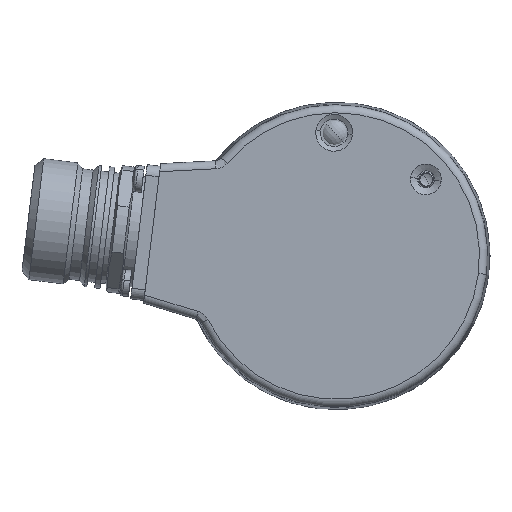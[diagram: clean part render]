
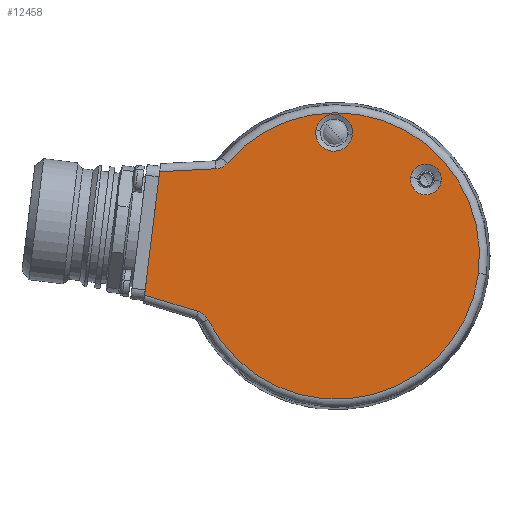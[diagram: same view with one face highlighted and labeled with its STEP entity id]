
A CAD part, left-side view. The second image highlights one B-rep face of the part: STEP entity #12458.
In plain terms, the highlighted planar face has unit normal (-1, 0, 0).
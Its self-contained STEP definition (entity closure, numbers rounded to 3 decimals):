
#340 = DIRECTION ( 'NONE',  ( 0., -0.993, -0.122 ) ) ;
#341 = DIRECTION ( 'NONE',  ( 1., 0., 0. ) ) ;
#342 = CARTESIAN_POINT ( 'NONE',  ( -30.5, -16.919, 14.45 ) ) ;
#343 = AXIS2_PLACEMENT_3D ( 'NONE', #342, #341, #340 ) ;
#344 = CIRCLE ( 'NONE', #343, 2.899 ) ;
#6248 = CARTESIAN_POINT ( 'NONE',  ( -30.5, -3.034, 22.824 ) ) ;
#6834 = CARTESIAN_POINT ( 'NONE',  ( -30.5, 3.846, 23.669 ) ) ;
#6835 = DIRECTION ( 'NONE',  ( 0., -0.993, -0.122 ) ) ;
#6836 = DIRECTION ( 'NONE',  ( 1., 0., 0. ) ) ;
#6837 = CARTESIAN_POINT ( 'NONE',  ( -30.5, 0.406, 23.246 ) ) ;
#6838 = AXIS2_PLACEMENT_3D ( 'NONE', #6837, #6836, #6835 ) ;
#6839 = CIRCLE ( 'NONE', #6838, 3.466 ) ;
#7223 = CARTESIAN_POINT ( 'NONE',  ( -30.5, -19.796, 14.097 ) ) ;
#7255 = CARTESIAN_POINT ( 'NONE',  ( -30.5, -14.042, 14.804 ) ) ;
#7256 = DIRECTION ( 'NONE',  ( 0., -0.993, -0.122 ) ) ;
#7257 = DIRECTION ( 'NONE',  ( 1., 0., 0. ) ) ;
#7258 = CARTESIAN_POINT ( 'NONE',  ( -30.5, -16.919, 14.45 ) ) ;
#7259 = AXIS2_PLACEMENT_3D ( 'NONE', #7258, #7257, #7256 ) ;
#7260 = CIRCLE ( 'NONE', #7259, 2.899 ) ;
#7264 = DIRECTION ( 'NONE',  ( 0., -0.993, -0.122 ) ) ;
#7265 = DIRECTION ( 'NONE',  ( -1., 0., 0. ) ) ;
#7266 = CARTESIAN_POINT ( 'NONE',  ( -30.5, 0., 0. ) ) ;
#7267 = AXIS2_PLACEMENT_3D ( 'NONE', #7266, #7265, #7264 ) ;
#7268 = CIRCLE ( 'NONE', #7267, 27.022 ) ;
#7414 = CARTESIAN_POINT ( 'NONE',  ( -30.5, 20.579, 17.512 ) ) ;
#7415 = CARTESIAN_POINT ( 'NONE',  ( -30.5, -26.821, -3.293 ) ) ;
#8282 = CARTESIAN_POINT ( 'NONE',  ( -30.5, 36.168, -7.374 ) ) ;
#8310 = CARTESIAN_POINT ( 'NONE',  ( -30.5, 26.015, -10.478 ) ) ;
#8316 = CARTESIAN_POINT ( 'NONE',  ( -30.5, 24.205, -12.014 ) ) ;
#8331 = CARTESIAN_POINT ( 'NONE',  ( -30.5, 26.015, -10.478 ) ) ;
#8332 = CARTESIAN_POINT ( 'NONE',  ( -30.5, 25.819, -10.538 ) ) ;
#8333 = CARTESIAN_POINT ( 'NONE',  ( -30.5, 25.632, -10.617 ) ) ;
#8334 = CARTESIAN_POINT ( 'NONE',  ( -30.5, 25.277, -10.811 ) ) ;
#8335 = CARTESIAN_POINT ( 'NONE',  ( -30.5, 25.107, -10.927 ) ) ;
#8336 = CARTESIAN_POINT ( 'NONE',  ( -30.5, 24.797, -11.19 ) ) ;
#8337 = CARTESIAN_POINT ( 'NONE',  ( -30.5, 24.657, -11.336 ) ) ;
#8338 = CARTESIAN_POINT ( 'NONE',  ( -30.5, 24.406, -11.656 ) ) ;
#8339 = CARTESIAN_POINT ( 'NONE',  ( -30.5, 24.296, -11.83 ) ) ;
#8340 = CARTESIAN_POINT ( 'NONE',  ( -30.5, 24.205, -12.014 ) ) ;
#8349 = B_SPLINE_CURVE_WITH_KNOTS ( 'NONE', 3,
 ( #8340, #8339, #8338, #8337, #8336, #8335, #8334, #8333, #8332, #8331 ),
 .UNSPECIFIED., .F., .F.,
 ( 4, 2, 2, 2, 4 ),
 ( 0., 0.001, 0.001, 0.002, 0.002 ),
 .UNSPECIFIED. ) ;
#8546 = DIRECTION ( 'NONE',  ( 0., -0.993, -0.122 ) ) ;
#8547 = DIRECTION ( 'NONE',  ( -1., 0., 0. ) ) ;
#8548 = CARTESIAN_POINT ( 'NONE',  ( -30.5, 0., 0. ) ) ;
#8549 = AXIS2_PLACEMENT_3D ( 'NONE', #8548, #8547, #8546 ) ;
#8550 = CIRCLE ( 'NONE', #8549, 27.022 ) ;
#9016 = DIRECTION ( 'NONE',  ( 0., 0.999, -0.052 ) ) ;
#9017 = VECTOR ( 'NONE', #9016, 1000. ) ;
#9018 = CARTESIAN_POINT ( 'NONE',  ( -30.5, 33.046, 15.919 ) ) ;
#9019 = LINE ( 'NONE', #9018, #9017 ) ;
#9096 = DIRECTION ( 'NONE',  ( 0., -0.956, -0.292 ) ) ;
#9097 = VECTOR ( 'NONE', #9096, 1000. ) ;
#9098 = CARTESIAN_POINT ( 'NONE',  ( -30.5, 25.362, -10.678 ) ) ;
#9099 = LINE ( 'NONE', #9098, #9097 ) ;
#9101 = CARTESIAN_POINT ( 'NONE',  ( -30.5, 22.708, 16.461 ) ) ;
#9102 = CARTESIAN_POINT ( 'NONE',  ( -30.5, 33.31, 15.905 ) ) ;
#9231 = FACE_OUTER_BOUND ( 'NONE', #12633, .T. ) ;
#9232 = FACE_BOUND ( 'NONE', #12626, .T. ) ;
#9233 = FACE_BOUND ( 'NONE', #12460, .T. ) ;
#9234 = DIRECTION ( 'NONE',  ( 0., -0.993, -0.122 ) ) ;
#9235 = DIRECTION ( 'NONE',  ( 1., 0., 0. ) ) ;
#9236 = CARTESIAN_POINT ( 'NONE',  ( -30.5, 0.406, 23.246 ) ) ;
#9237 = AXIS2_PLACEMENT_3D ( 'NONE', #9236, #9235, #9234 ) ;
#9238 = CIRCLE ( 'NONE', #9237, 3.466 ) ;
#9370 = DIRECTION ( 'NONE',  ( 0., -0.122, 0.993 ) ) ;
#9371 = VECTOR ( 'NONE', #9370, 1000. ) ;
#9372 = CARTESIAN_POINT ( 'NONE',  ( -30.5, 36.354, -8.886 ) ) ;
#9373 = LINE ( 'NONE', #9372, #9371 ) ;
#9421 = CARTESIAN_POINT ( 'NONE',  ( -30.5, 20.579, 17.512 ) ) ;
#9422 = CARTESIAN_POINT ( 'NONE',  ( -30.5, 20.712, 17.356 ) ) ;
#9423 = CARTESIAN_POINT ( 'NONE',  ( -30.5, 20.859, 17.216 ) ) ;
#9424 = CARTESIAN_POINT ( 'NONE',  ( -30.5, 21.178, 16.967 ) ) ;
#9425 = CARTESIAN_POINT ( 'NONE',  ( -30.5, 21.352, 16.857 ) ) ;
#9453 = CARTESIAN_POINT ( 'NONE',  ( -30.5, 0., 0. ) ) ;
#9456 = AXIS2_PLACEMENT_3D ( 'NONE', #9453, #9580, #9579 ) ;
#9484 = B_SPLINE_CURVE_WITH_KNOTS ( 'NONE', 3,
 ( #9592, #9591, #9590, #9589, #9588, #9425, #9424, #9423, #9422, #9421 ),
 .UNSPECIFIED., .F., .F.,
 ( 4, 2, 2, 2, 4 ),
 ( 0., 0.001, 0.001, 0.002, 0.002 ),
 .UNSPECIFIED. ) ;
#9492 = PLANE ( 'NONE',  #9456 ) ;
#9579 = DIRECTION ( 'NONE',  ( 0., -0.993, -0.122 ) ) ;
#9580 = DIRECTION ( 'NONE',  ( 1., 0., 0. ) ) ;
#9588 = CARTESIAN_POINT ( 'NONE',  ( -30.5, 21.716, 16.677 ) ) ;
#9589 = CARTESIAN_POINT ( 'NONE',  ( -30.5, 21.906, 16.606 ) ) ;
#9590 = CARTESIAN_POINT ( 'NONE',  ( -30.5, 22.299, 16.503 ) ) ;
#9591 = CARTESIAN_POINT ( 'NONE',  ( -30.5, 22.503, 16.471 ) ) ;
#9592 = CARTESIAN_POINT ( 'NONE',  ( -30.5, 22.708, 16.461 ) ) ;
#11676 = VERTEX_POINT ( 'NONE', #6248 ) ;
#11805 = EDGE_CURVE ( 'NONE', #11806, #11676, #6839, .T. ) ;
#11806 = VERTEX_POINT ( 'NONE', #6834 ) ;
#11886 = VERTEX_POINT ( 'NONE', #7223 ) ;
#11889 = EDGE_CURVE ( 'NONE', #11891, #11886, #7260, .T. ) ;
#11891 = VERTEX_POINT ( 'NONE', #7255 ) ;
#11936 = EDGE_CURVE ( 'NONE', #11945, #11946, #7268, .T. ) ;
#11945 = VERTEX_POINT ( 'NONE', #7415 ) ;
#11946 = VERTEX_POINT ( 'NONE', #7414 ) ;
#12222 = VERTEX_POINT ( 'NONE', #8282 ) ;
#12258 = VERTEX_POINT ( 'NONE', #8316 ) ;
#12262 = VERTEX_POINT ( 'NONE', #8310 ) ;
#12273 = EDGE_CURVE ( 'NONE', #12258, #12262, #8349, .T. ) ;
#12304 = EDGE_CURVE ( 'NONE', #12258, #11945, #8550, .T. ) ;
#12331 = EDGE_CURVE ( 'NONE', #12347, #12346, #9019, .T. ) ;
#12346 = VERTEX_POINT ( 'NONE', #9102 ) ;
#12347 = VERTEX_POINT ( 'NONE', #9101 ) ;
#12349 = EDGE_CURVE ( 'NONE', #12222, #12262, #9099, .T. ) ;
#12412 = ORIENTED_EDGE ( 'NONE', *, *, #12466, .F. ) ;
#12415 = ORIENTED_EDGE ( 'NONE', *, *, #12331, .T. ) ;
#12417 = ORIENTED_EDGE ( 'NONE', *, *, #12419, .F. ) ;
#12419 = EDGE_CURVE ( 'NONE', #12222, #12346, #9373, .T. ) ;
#12421 = ORIENTED_EDGE ( 'NONE', *, *, #12349, .T. ) ;
#12425 = ORIENTED_EDGE ( 'NONE', *, *, #12273, .F. ) ;
#12427 = ORIENTED_EDGE ( 'NONE', *, *, #12304, .T. ) ;
#12429 = ORIENTED_EDGE ( 'NONE', *, *, #11936, .T. ) ;
#12457 = EDGE_CURVE ( 'NONE', #11676, #11806, #9238, .T. ) ;
#12458 = ADVANCED_FACE ( 'NONE', ( #9233, #9232, #9231 ), #9492, .F. ) ;
#12460 = EDGE_LOOP ( 'NONE', ( #12462, #12625 ) ) ;
#12462 = ORIENTED_EDGE ( 'NONE', *, *, #11805, .T. ) ;
#12466 = EDGE_CURVE ( 'NONE', #12347, #11946, #9484, .T. ) ;
#12625 = ORIENTED_EDGE ( 'NONE', *, *, #12457, .T. ) ;
#12626 = EDGE_LOOP ( 'NONE', ( #12629, #12631 ) ) ;
#12629 = ORIENTED_EDGE ( 'NONE', *, *, #11889, .T. ) ;
#12631 = ORIENTED_EDGE ( 'NONE', *, *, #15176, .T. ) ;
#12633 = EDGE_LOOP ( 'NONE', ( #12412, #12415, #12417, #12421, #12425, #12427, #12429 ) ) ;
#15176 = EDGE_CURVE ( 'NONE', #11886, #11891, #344, .T. ) ;
